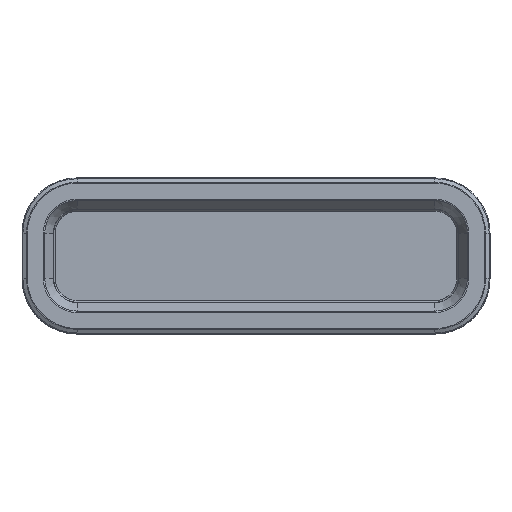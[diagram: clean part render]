
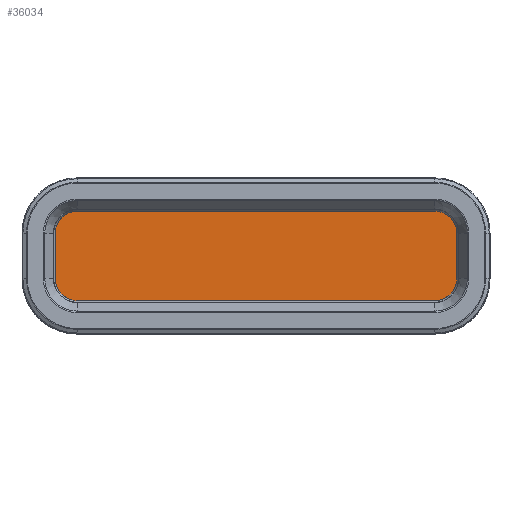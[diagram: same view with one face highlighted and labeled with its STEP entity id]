
A CAD part, top view. The second image highlights one B-rep face of the part: STEP entity #36034.
In plain terms, the highlighted planar face has unit normal (0, 0, 1) as drawn and (0, 0, -1) by its records, which use the part's own axes.
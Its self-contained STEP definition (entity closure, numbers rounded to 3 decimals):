
#35739=DIRECTION('',(1.,0.,0.));
#35740=VECTOR('',#35739,458.);
#35741=CARTESIAN_POINT('',(37.,0.,0.));
#35742=LINE('',#35741,#35740);
#35743=CARTESIAN_POINT('',(495.,37.,0.));
#35744=DIRECTION('',(0.,0.,1.));
#35745=DIRECTION('',(0.,-1.,0.));
#35746=AXIS2_PLACEMENT_3D('',#35743,#35744,#35745);
#35748=DIRECTION('',(0.,1.,0.));
#35749=VECTOR('',#35748,58.);
#35750=CARTESIAN_POINT('',(532.,37.,0.));
#35751=LINE('',#35750,#35749);
#35752=CARTESIAN_POINT('',(495.,95.,0.));
#35753=DIRECTION('',(0.,0.,1.));
#35754=DIRECTION('',(1.,0.,0.));
#35755=AXIS2_PLACEMENT_3D('',#35752,#35753,#35754);
#35757=DIRECTION('',(-1.,0.,0.));
#35758=VECTOR('',#35757,458.);
#35759=CARTESIAN_POINT('',(495.,132.,0.));
#35760=LINE('',#35759,#35758);
#35761=CARTESIAN_POINT('',(37.,95.,0.));
#35762=DIRECTION('',(0.,0.,1.));
#35763=DIRECTION('',(0.,1.,0.));
#35764=AXIS2_PLACEMENT_3D('',#35761,#35762,#35763);
#35766=DIRECTION('',(0.,-1.,0.));
#35767=VECTOR('',#35766,58.);
#35768=CARTESIAN_POINT('',(0.,95.,0.));
#35769=LINE('',#35768,#35767);
#35770=CARTESIAN_POINT('',(37.,37.,0.));
#35771=DIRECTION('',(0.,0.,1.));
#35772=DIRECTION('',(-1.,0.,0.));
#35773=AXIS2_PLACEMENT_3D('',#35770,#35771,#35772);
#35947=CARTESIAN_POINT('',(37.,0.,0.));
#35948=CARTESIAN_POINT('',(495.,0.,0.));
#35949=VERTEX_POINT('',#35947);
#35950=VERTEX_POINT('',#35948);
#35951=CARTESIAN_POINT('',(532.,37.,0.));
#35952=VERTEX_POINT('',#35951);
#35953=CARTESIAN_POINT('',(532.,95.,0.));
#35954=VERTEX_POINT('',#35953);
#35955=CARTESIAN_POINT('',(495.,132.,0.));
#35956=VERTEX_POINT('',#35955);
#35957=CARTESIAN_POINT('',(37.,132.,0.));
#35958=VERTEX_POINT('',#35957);
#35959=CARTESIAN_POINT('',(0.,95.,0.));
#35960=VERTEX_POINT('',#35959);
#35961=CARTESIAN_POINT('',(0.,37.,0.));
#35962=VERTEX_POINT('',#35961);
#36011=CARTESIAN_POINT('',(0.,0.,0.));
#36012=DIRECTION('',(0.,0.,1.));
#36013=DIRECTION('',(1.,0.,0.));
#36014=AXIS2_PLACEMENT_3D('',#36011,#36012,#36013);
#36015=PLANE('',#36014);
#36017=ORIENTED_EDGE('',*,*,#36016,.T.);
#36019=ORIENTED_EDGE('',*,*,#36018,.T.);
#36021=ORIENTED_EDGE('',*,*,#36020,.T.);
#36023=ORIENTED_EDGE('',*,*,#36022,.T.);
#36025=ORIENTED_EDGE('',*,*,#36024,.T.);
#36027=ORIENTED_EDGE('',*,*,#36026,.T.);
#36029=ORIENTED_EDGE('',*,*,#36028,.T.);
#36031=ORIENTED_EDGE('',*,*,#36030,.T.);
#36032=EDGE_LOOP('',(#36017,#36019,#36021,#36023,#36025,#36027,#36029,#36031));
#36033=FACE_OUTER_BOUND('',#36032,.F.);
#36034=ADVANCED_FACE('',(#36033),#36015,.F.);
#35747=CIRCLE('',#35746,37.);
#35756=CIRCLE('',#35755,37.);
#35765=CIRCLE('',#35764,37.);
#35774=CIRCLE('',#35773,37.);
#36016=EDGE_CURVE('',#35949,#35950,#35742,.T.);
#36018=EDGE_CURVE('',#35950,#35952,#35747,.T.);
#36020=EDGE_CURVE('',#35952,#35954,#35751,.T.);
#36022=EDGE_CURVE('',#35954,#35956,#35756,.T.);
#36024=EDGE_CURVE('',#35956,#35958,#35760,.T.);
#36026=EDGE_CURVE('',#35958,#35960,#35765,.T.);
#36028=EDGE_CURVE('',#35960,#35962,#35769,.T.);
#36030=EDGE_CURVE('',#35962,#35949,#35774,.T.);
